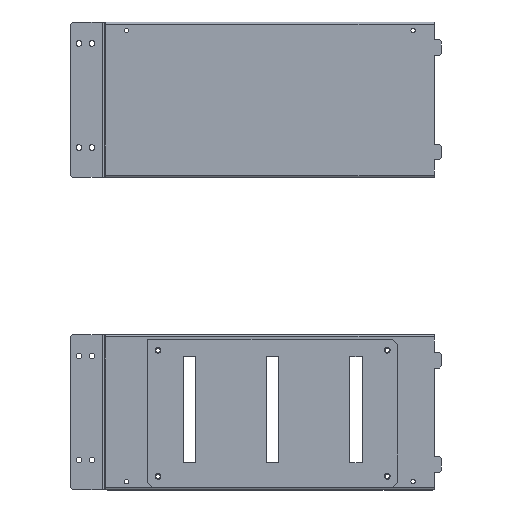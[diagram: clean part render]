
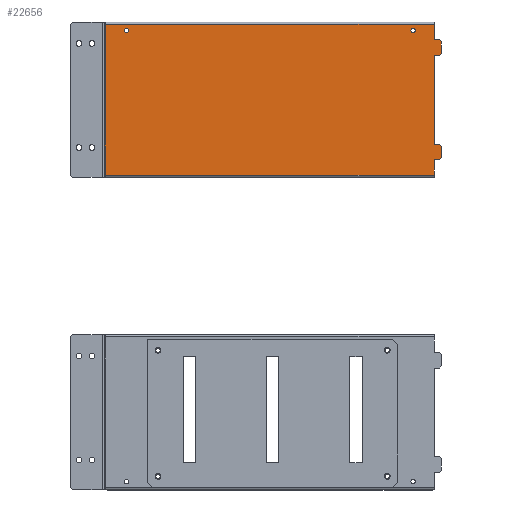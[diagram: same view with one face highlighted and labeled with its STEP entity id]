
A CAD part, top view. The second image highlights one B-rep face of the part: STEP entity #22656.
In plain terms, the highlighted planar face has unit normal (0, 0, 1).
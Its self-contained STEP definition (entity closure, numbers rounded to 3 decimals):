
#20881=CARTESIAN_POINT(' ',(136.65,66.5,0.));
#20882=VERTEX_POINT(' ',#20881);
#20896=CARTESIAN_POINT(' ',(138.75,66.5,0.));
#20901=DIRECTION(' ',(0.,-0.,1.));
#20906=DIRECTION(' ',(-1.,0.,0.));
#20911=AXIS2_PLACEMENT_3D(' ',#20896,#20901,#20906);
#20916=CIRCLE('',#20911,2.1);
#20921=CARTESIAN_POINT(' ',(140.85,66.5,0.));
#20922=VERTEX_POINT(' ',#20921);
#20926=EDGE_CURVE(' ',#20882,#20922,#20916,.T.);
#21831=CARTESIAN_POINT(' ',(138.75,66.5,0.));
#21836=DIRECTION(' ',(0.,0.,1.));
#21841=DIRECTION(' ',(1.,0.,0.));
#21846=AXIS2_PLACEMENT_3D(' ',#21831,#21836,#21841);
#21851=CIRCLE('',#21846,2.1);
#21856=EDGE_CURVE(' ',#20922,#20882,#21851,.T.);
#21881=DIRECTION(' ',(-0.,-0.,1.));
#21886=CARTESIAN_POINT(' ',(166.,-72.4,0.));
#21891=DIRECTION(' ',(0.,1.,0.));
#21896=AXIS2_PLACEMENT_3D(' ',#21886,#21881,#21891);
#21901=PLANE('NONE',#21896);
#21906=CARTESIAN_POINT(' ',(166.,-44.5,0.));
#21911=DIRECTION(' ',(-0.707,0.707,0.));
#21916=VECTOR(' ',#21911,1.);
#21921=LINE('',#21906,#21916);
#21926=CARTESIAN_POINT(' ',(166.,-44.5,0.));
#21927=VERTEX_POINT(' ',#21926);
#21931=CARTESIAN_POINT(' ',(164.,-42.5,0.));
#21932=VERTEX_POINT(' ',#21931);
#21936=EDGE_CURVE(' ',#21927,#21932,#21921,.T.);
#21941=ORIENTED_EDGE(' ',*,*,#21936,.T.);
#21946=CARTESIAN_POINT(' ',(164.,-42.5,0.));
#21951=DIRECTION(' ',(-1.,0.,0.));
#21956=VECTOR(' ',#21951,1.);
#21961=LINE('',#21946,#21956);
#21966=CARTESIAN_POINT(' ',(159.,-42.5,0.));
#21967=VERTEX_POINT(' ',#21966);
#21971=EDGE_CURVE(' ',#21932,#21967,#21961,.T.);
#21976=ORIENTED_EDGE(' ',*,*,#21971,.T.);
#21981=CARTESIAN_POINT(' ',(159.,-42.5,0.));
#21986=DIRECTION(' ',(0.,1.,0.));
#21991=VECTOR(' ',#21986,1.);
#21996=LINE('',#21981,#21991);
#22001=CARTESIAN_POINT(' ',(159.,42.5,0.));
#22002=VERTEX_POINT(' ',#22001);
#22006=EDGE_CURVE(' ',#21967,#22002,#21996,.T.);
#22011=ORIENTED_EDGE(' ',*,*,#22006,.T.);
#22016=CARTESIAN_POINT(' ',(159.,42.5,0.));
#22021=DIRECTION(' ',(1.,0.,0.));
#22026=VECTOR(' ',#22021,1.);
#22031=LINE('',#22016,#22026);
#22036=CARTESIAN_POINT(' ',(164.,42.5,0.));
#22037=VERTEX_POINT(' ',#22036);
#22041=EDGE_CURVE(' ',#22002,#22037,#22031,.T.);
#22046=ORIENTED_EDGE(' ',*,*,#22041,.T.);
#22051=CARTESIAN_POINT(' ',(164.,42.5,0.));
#22056=DIRECTION(' ',(0.707,0.707,0.));
#22061=VECTOR(' ',#22056,1.);
#22066=LINE('',#22051,#22061);
#22071=CARTESIAN_POINT(' ',(166.,44.5,0.));
#22072=VERTEX_POINT(' ',#22071);
#22076=EDGE_CURVE(' ',#22037,#22072,#22066,.T.);
#22081=ORIENTED_EDGE(' ',*,*,#22076,.T.);
#22086=CARTESIAN_POINT(' ',(166.,44.5,0.));
#22091=DIRECTION(' ',(0.,1.,0.));
#22096=VECTOR(' ',#22091,1.);
#22101=LINE('',#22086,#22096);
#22106=CARTESIAN_POINT(' ',(166.,55.5,0.));
#22107=VERTEX_POINT(' ',#22106);
#22111=EDGE_CURVE(' ',#22072,#22107,#22101,.T.);
#22116=ORIENTED_EDGE(' ',*,*,#22111,.T.);
#22121=CARTESIAN_POINT(' ',(166.,55.5,0.));
#22126=DIRECTION(' ',(-0.707,0.707,0.));
#22131=VECTOR(' ',#22126,1.);
#22136=LINE('',#22121,#22131);
#22141=CARTESIAN_POINT(' ',(164.,57.5,0.));
#22142=VERTEX_POINT(' ',#22141);
#22146=EDGE_CURVE(' ',#22107,#22142,#22136,.T.);
#22151=ORIENTED_EDGE(' ',*,*,#22146,.T.);
#22156=CARTESIAN_POINT(' ',(164.,57.5,0.));
#22161=DIRECTION(' ',(-1.,0.,0.));
#22166=VECTOR(' ',#22161,1.);
#22171=LINE('',#22156,#22166);
#22176=CARTESIAN_POINT(' ',(159.,57.5,0.));
#22177=VERTEX_POINT(' ',#22176);
#22181=EDGE_CURVE(' ',#22142,#22177,#22171,.T.);
#22186=ORIENTED_EDGE(' ',*,*,#22181,.T.);
#22191=CARTESIAN_POINT(' ',(159.,57.5,0.));
#22196=DIRECTION(' ',(0.,1.,0.));
#22201=VECTOR(' ',#22196,1.);
#22206=LINE('',#22191,#22201);
#22211=CARTESIAN_POINT(' ',(159.,72.4,0.));
#22212=VERTEX_POINT(' ',#22211);
#22216=EDGE_CURVE(' ',#22177,#22212,#22206,.T.);
#22221=ORIENTED_EDGE(' ',*,*,#22216,.T.);
#22226=CARTESIAN_POINT(' ',(159.,72.4,0.));
#22231=DIRECTION(' ',(-1.,0.,0.));
#22236=VECTOR(' ',#22231,1.);
#22241=LINE('',#22226,#22236);
#22246=CARTESIAN_POINT(' ',(-156.5,72.4,0.));
#22247=VERTEX_POINT(' ',#22246);
#22251=EDGE_CURVE(' ',#22212,#22247,#22241,.T.);
#22256=ORIENTED_EDGE(' ',*,*,#22251,.T.);
#22261=CARTESIAN_POINT(' ',(-156.5,72.4,0.));
#22266=DIRECTION(' ',(-1.,0.,0.));
#22271=VECTOR(' ',#22266,1.);
#22276=LINE('',#22261,#22271);
#22281=CARTESIAN_POINT(' ',(-156.9,72.4,0.));
#22282=VERTEX_POINT(' ',#22281);
#22286=EDGE_CURVE(' ',#22247,#22282,#22276,.T.);
#22291=ORIENTED_EDGE(' ',*,*,#22286,.T.);
#22296=CARTESIAN_POINT(' ',(-156.9,-72.4,0.));
#22301=DIRECTION(' ',(0.,1.,0.));
#22306=VECTOR(' ',#22301,1.);
#22311=LINE('',#22296,#22306);
#22316=CARTESIAN_POINT(' ',(-156.9,-72.4,0.));
#22317=VERTEX_POINT(' ',#22316);
#22321=EDGE_CURVE(' ',#22317,#22282,#22311,.T.);
#22326=ORIENTED_EDGE(' ',*,*,#22321,.F.);
#22331=CARTESIAN_POINT(' ',(-156.9,-72.4,0.));
#22336=DIRECTION(' ',(1.,0.,0.));
#22341=VECTOR(' ',#22336,1.);
#22346=LINE('',#22331,#22341);
#22351=CARTESIAN_POINT(' ',(-156.5,-72.4,0.));
#22352=VERTEX_POINT(' ',#22351);
#22356=EDGE_CURVE(' ',#22317,#22352,#22346,.T.);
#22361=ORIENTED_EDGE(' ',*,*,#22356,.T.);
#22366=CARTESIAN_POINT(' ',(-156.5,-72.4,0.));
#22371=DIRECTION(' ',(1.,0.,0.));
#22376=VECTOR(' ',#22371,1.);
#22381=LINE('',#22366,#22376);
#22386=CARTESIAN_POINT(' ',(159.,-72.4,0.));
#22387=VERTEX_POINT(' ',#22386);
#22391=EDGE_CURVE(' ',#22352,#22387,#22381,.T.);
#22396=ORIENTED_EDGE(' ',*,*,#22391,.T.);
#22401=CARTESIAN_POINT(' ',(159.,-72.4,0.));
#22406=DIRECTION(' ',(0.,1.,0.));
#22411=VECTOR(' ',#22406,1.);
#22416=LINE('',#22401,#22411);
#22421=CARTESIAN_POINT(' ',(159.,-57.5,0.));
#22422=VERTEX_POINT(' ',#22421);
#22426=EDGE_CURVE(' ',#22387,#22422,#22416,.T.);
#22431=ORIENTED_EDGE(' ',*,*,#22426,.T.);
#22436=CARTESIAN_POINT(' ',(159.,-57.5,0.));
#22441=DIRECTION(' ',(1.,0.,0.));
#22446=VECTOR(' ',#22441,1.);
#22451=LINE('',#22436,#22446);
#22456=CARTESIAN_POINT(' ',(164.,-57.5,0.));
#22457=VERTEX_POINT(' ',#22456);
#22461=EDGE_CURVE(' ',#22422,#22457,#22451,.T.);
#22466=ORIENTED_EDGE(' ',*,*,#22461,.T.);
#22471=CARTESIAN_POINT(' ',(164.,-57.5,0.));
#22476=DIRECTION(' ',(0.707,0.707,0.));
#22481=VECTOR(' ',#22476,1.);
#22486=LINE('',#22471,#22481);
#22491=CARTESIAN_POINT(' ',(166.,-55.5,0.));
#22492=VERTEX_POINT(' ',#22491);
#22496=EDGE_CURVE(' ',#22457,#22492,#22486,.T.);
#22501=ORIENTED_EDGE(' ',*,*,#22496,.T.);
#22506=CARTESIAN_POINT(' ',(166.,-55.5,0.));
#22511=DIRECTION(' ',(0.,1.,0.));
#22516=VECTOR(' ',#22511,1.);
#22521=LINE('',#22506,#22516);
#22526=EDGE_CURVE(' ',#22492,#21927,#22521,.T.);
#22531=ORIENTED_EDGE(' ',*,*,#22526,.T.);
#22536=EDGE_LOOP(' ',(#21941,#21976,#22011,#22046,#22081,#22116,#22151,#22186,#22221,#22256,#22291,#22326,#22361,#22396,#22431,#22466,#22501,#22531));
#22541=FACE_OUTER_BOUND(' ',#22536,.T.);
#22546=ORIENTED_EDGE(' ',*,*,#21856,.F.);
#22551=ORIENTED_EDGE(' ',*,*,#20926,.F.);
#22556=EDGE_LOOP(' ',(#22546,#22551));
#22561=FACE_BOUND(' ',#22556,.T.);
#22566=CARTESIAN_POINT(' ',(-136.25,66.5,0.));
#22571=DIRECTION(' ',(0.,0.,1.));
#22576=DIRECTION(' ',(1.,0.,0.));
#22581=AXIS2_PLACEMENT_3D(' ',#22566,#22571,#22576);
#22586=CIRCLE('',#22581,2.1);
#22591=CARTESIAN_POINT(' ',(-134.15,66.5,0.));
#22592=VERTEX_POINT(' ',#22591);
#22596=CARTESIAN_POINT(' ',(-138.35,66.5,0.));
#22597=VERTEX_POINT(' ',#22596);
#22601=EDGE_CURVE(' ',#22592,#22597,#22586,.T.);
#22606=ORIENTED_EDGE(' ',*,*,#22601,.F.);
#22611=CARTESIAN_POINT(' ',(-136.25,66.5,0.));
#22616=DIRECTION(' ',(0.,-0.,1.));
#22621=DIRECTION(' ',(-1.,0.,0.));
#22626=AXIS2_PLACEMENT_3D(' ',#22611,#22616,#22621);
#22631=CIRCLE('',#22626,2.1);
#22636=EDGE_CURVE(' ',#22597,#22592,#22631,.T.);
#22641=ORIENTED_EDGE(' ',*,*,#22636,.F.);
#22646=EDGE_LOOP(' ',(#22606,#22641));
#22651=FACE_BOUND(' ',#22646,.T.);
#22656=ADVANCED_FACE('NONE',(#22541,#22561,#22651),#21901,.T.);
